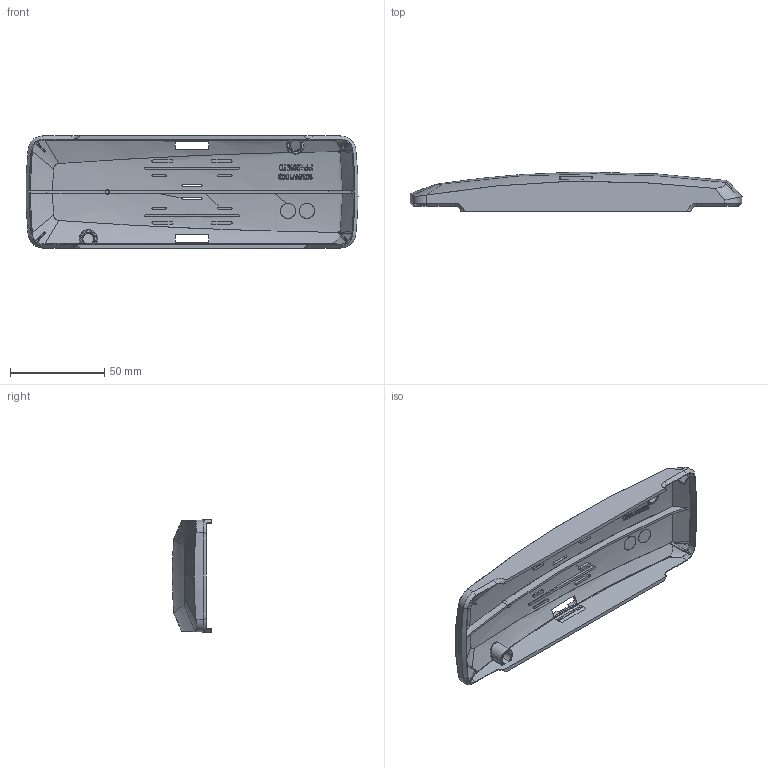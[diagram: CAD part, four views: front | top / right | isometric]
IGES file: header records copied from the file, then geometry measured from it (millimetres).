
Start section:  PTC IGES file: 1038w4004-pj2-lid.igs
Global section: file name: 1038w4004-pj2-lid.igs; native system: Creo Parametric by PTC Inc.; preprocessor: 2018400; author: ti; organization: Unknown; date: 20190524.221904; units: millimetre
Bounding box: 176.21 x 21.02 x 59.8 mm (x, y, z)
Surface area: 33278.4 mm2 (no closed solid volume)
Topology: 0 solids, 0 shells, 626 faces, 3332 edges, 3330 vertices
Faces by surface type: bspline 491, revolution 134, extrusion 1
